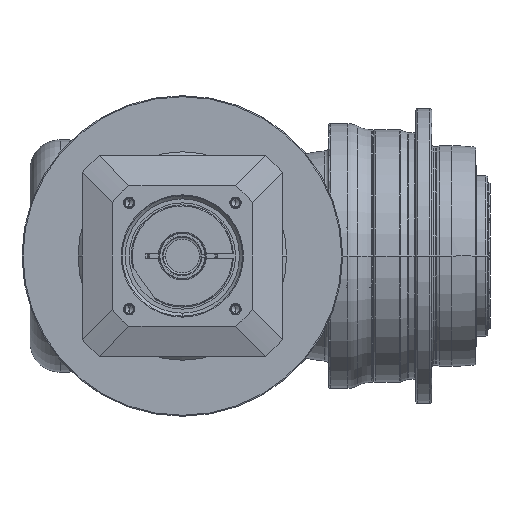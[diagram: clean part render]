
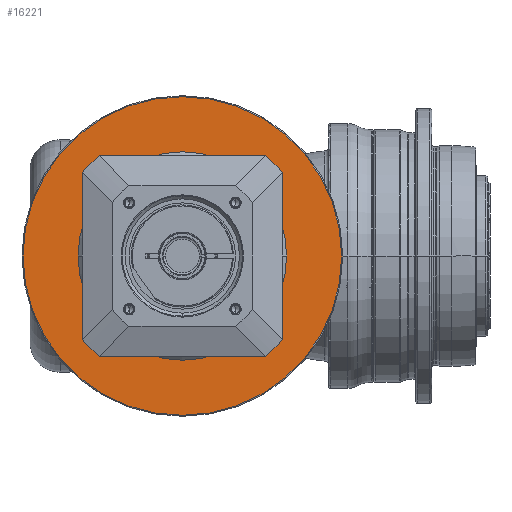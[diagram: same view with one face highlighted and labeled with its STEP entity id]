
A CAD part, front view. The second image highlights one B-rep face of the part: STEP entity #16221.
In plain terms, the highlighted planar face has unit normal (0, -1, 0) as drawn and (1, 0, 0) by its records, which use the part's own axes.
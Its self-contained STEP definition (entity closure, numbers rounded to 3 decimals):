
#15748=CARTESIAN_POINT('',(-2.,0.,
0.));
#15749=DIRECTION('',(-1.,0.,0.));
#15750=DIRECTION('',(0.,1.,0.));
#15751=AXIS2_PLACEMENT_3D('',#15748,#15749,#15750);
#15753=CARTESIAN_POINT('',(-2.,0.,
0.));
#15754=DIRECTION('',(-1.,0.,0.));
#15755=DIRECTION('',(0.,-1.,0.));
#15756=AXIS2_PLACEMENT_3D('',#15753,#15754,#15755);
#15758=CARTESIAN_POINT('',(-2.,0.,0.));
#15759=DIRECTION('',(-1.,0.,0.));
#15760=DIRECTION('',(0.,-1.,0.));
#15761=AXIS2_PLACEMENT_3D('',#15758,#15759,#15760);
#15763=CARTESIAN_POINT('',(-2.,0.,0.));
#15764=DIRECTION('',(-1.,0.,0.));
#15765=DIRECTION('',(0.,1.,0.));
#15766=AXIS2_PLACEMENT_3D('',#15763,#15764,#15765);
#15792=CARTESIAN_POINT('',(-2.,-79.5,0.));
#15793=CARTESIAN_POINT('',(-2.,79.5,0.));
#15794=VERTEX_POINT('',#15792);
#15795=VERTEX_POINT('',#15793);
#15840=CARTESIAN_POINT('',(-2.,52.,0.));
#15841=CARTESIAN_POINT('',(-2.,-52.,
0.));
#15842=VERTEX_POINT('',#15840);
#15843=VERTEX_POINT('',#15841);
#16206=CARTESIAN_POINT('',(-2.,0.,0.));
#16207=DIRECTION('',(1.,0.,0.));
#16208=DIRECTION('',(0.,-1.,0.));
#16209=AXIS2_PLACEMENT_3D('',#16206,#16207,#16208);
#16210=PLANE('',#16209);
#16211=ORIENTED_EDGE('',*,*,#16147,.T.);
#16212=ORIENTED_EDGE('',*,*,#16162,.T.);
#16213=EDGE_LOOP('',(#16211,#16212));
#16214=FACE_OUTER_BOUND('',#16213,.F.);
#16216=ORIENTED_EDGE('',*,*,#16215,.F.);
#16218=ORIENTED_EDGE('',*,*,#16217,.F.);
#16219=EDGE_LOOP('',(#16216,#16218));
#16220=FACE_BOUND('',#16219,.F.);
#16221=ADVANCED_FACE('',(#16214,#16220),#16210,.T.);
#15752=CIRCLE('',#15751,52.);
#15757=CIRCLE('',#15756,52.);
#15762=CIRCLE('',#15761,79.5);
#15767=CIRCLE('',#15766,79.5);
#16147=EDGE_CURVE('',#15794,#15795,#15762,.T.);
#16162=EDGE_CURVE('',#15795,#15794,#15767,.T.);
#16215=EDGE_CURVE('',#15842,#15843,#15752,.T.);
#16217=EDGE_CURVE('',#15843,#15842,#15757,.T.);
